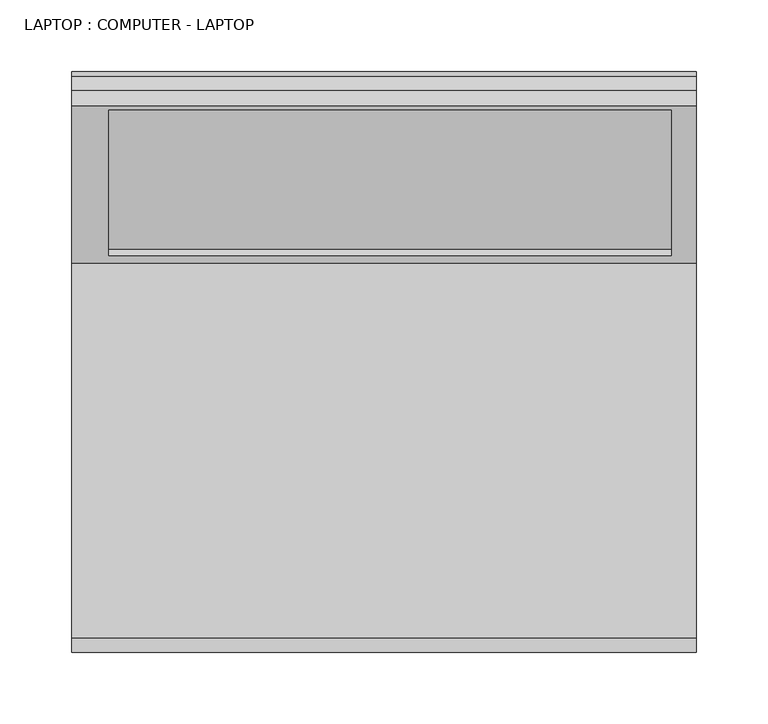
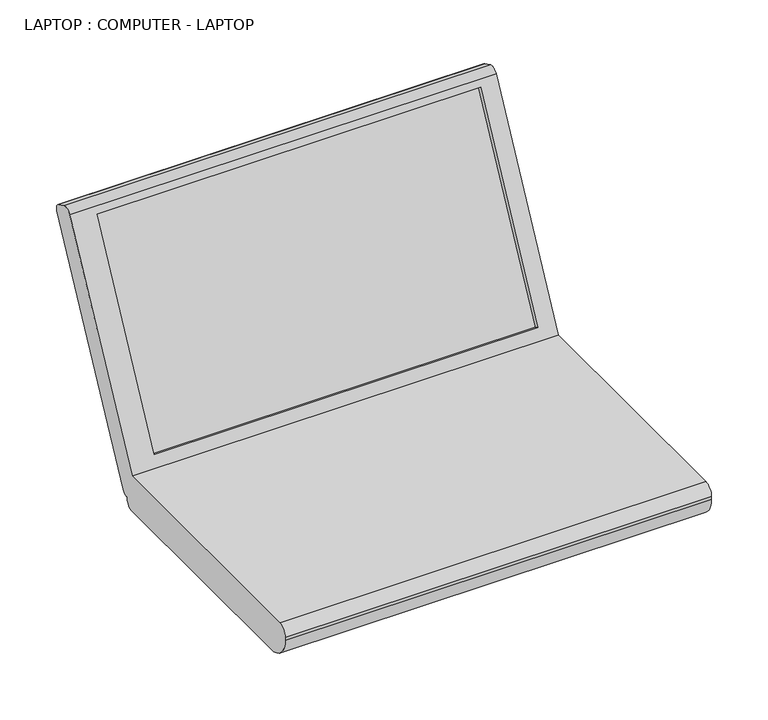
"""IFC4 building model written with IfcOpenShell, lengths in millimetres: proxy geometry, LAPTOP : COMPUTER - LAPTOP."""

from ifc_helpers import new_model, si_unit, frame, origin, place, context, project, spatial, circle_curve, source, transform, mapped, element, save
from ifc_brep_helpers import plane_surface, cylinder_surface, advanced_brep


def laptop_computer_laptop_e9ecc115(model_context):
    return source(origin(), model_context, "Body", "AdvancedBrep", [
        advanced_brep(
        [(222.7099728, 100.9210567, 0.0), (222.7099728, 109.8065169, 10.0348777), (222.7099728, 116.9879492, 13.9651588), (222.7099728, 234.2198653, 244.0457491), (222.7099728, 231.5536076, 252.2516467), (222.7099728, 221.8218996, 257.2101996), (222.7099728, 211.0931325, 253.7242118), (222.7099728, 101.2168972, 38.0799582), (222.7099728, -160.1276547, 38.0799582), (222.7099728, -170.1276547, 28.0799582), (222.7099728, -170.1276547, 25.0), (222.7099728, -145.1276547, 0.0), (-212.691785, 100.9210567, 0.0), (-212.691785, -145.1276547, 0.0), (-212.691785, -170.1276547, 25.0), (-212.691785, -170.1276547, 28.0799582), (-212.691785, -160.1276547, 38.0799582), (-212.691785, 101.2168972, 38.0799582), (-212.691785, 211.0931325, 253.7242118), (-212.691785, 221.8218996, 257.2101996), (-212.691785, 231.5536076, 252.2516467), (-212.691785, 234.2198653, 244.0457491), (-212.691785, 116.9879492, 13.9651588), (-212.691785, 109.8065169, 10.0348777), (205.2836183, 207.9046647, 247.4664914), (205.2836183, 106.7529487, 48.9450711), (-186.8371045, 106.7529487, 48.9450711), (-186.8371045, 207.9046647, 247.4664914), (205.2836183, 212.3596973, 245.1965389), (205.2836183, 111.2079814, 46.6751186), (-186.8371045, 111.2079814, 46.6751186), (-186.8371045, 212.3596973, 245.1965389)],
        [
            (0, 1, circle_curve(frame((222.7099728, 100.9210567, 8.9512887), z_axis=(1.0, 0.0, 0.0), x_axis=(0.0, -1.0, 0.0)), 8.9512887)),
            (1, 2, circle_curve(frame((222.7099728, 110.517398, 17.2620693), z_axis=(1.0, 0.0, 0.0), x_axis=(0.0, -1.0, 0.0)), 7.2620693)),
            (2, 3),
            (3, 4, circle_curve(frame((222.7099728, 228.7837877, 246.815569), z_axis=(1.0, 0.0, 0.0), x_axis=(0.0, -1.0, 0.0)), 6.1010526)),
            (4, 5),
            (5, 6, circle_curve(frame((222.7099728, 218.2005099, 250.1028222), z_axis=(1.0, 0.0, 0.0), x_axis=(0.0, -1.0, 0.0)), 7.9767962)),
            (6, 7),
            (7, 8),
            (8, 9, circle_curve(frame((222.7099728, -160.1276547, 28.0799582), z_axis=(1.0, 0.0, 0.0), x_axis=(0.0, -1.0, 0.0)), 10.0)),
            (9, 10),
            (10, 11, circle_curve(frame((222.7099728, -145.1276547, 25.0), z_axis=(1.0, 0.0, 0.0), x_axis=(0.0, -1.0, 0.0)), 25.0)),
            (11, 0),
            (12, 13),
            (13, 14, circle_curve(frame((-212.691785, -145.1276547, 25.0), z_axis=(-1.0, 0.0, 0.0), x_axis=(0.0, -1.0, 0.0)), 25.0)),
            (14, 15),
            (15, 16, circle_curve(frame((-212.691785, -160.1276547, 28.0799582), z_axis=(-1.0, 0.0, 0.0), x_axis=(0.0, -1.0, 0.0)), 10.0)),
            (16, 17),
            (17, 18),
            (18, 19, circle_curve(frame((-212.691785, 218.2005099, 250.1028222), z_axis=(-1.0, 0.0, 0.0), x_axis=(0.0, -1.0, 0.0)), 7.9767962)),
            (19, 20),
            (20, 21, circle_curve(frame((-212.691785, 228.7837877, 246.815569), z_axis=(-1.0, 0.0, 0.0), x_axis=(0.0, -1.0, 0.0)), 6.1010526)),
            (21, 22),
            (22, 23, circle_curve(frame((-212.691785, 110.517398, 17.2620693), z_axis=(-1.0, 0.0, 0.0), x_axis=(0.0, -1.0, 0.0)), 7.2620693)),
            (23, 12, circle_curve(frame((-212.691785, 100.9210567, 8.9512887), z_axis=(-1.0, 0.0, 0.0), x_axis=(0.0, -1.0, 0.0)), 8.9512887)),
            (0, 12),
            (23, 1),
            (22, 2),
            (21, 3),
            (20, 4),
            (19, 5),
            (18, 6),
            (17, 7),
            (24, 25),
            (25, 26),
            (26, 27),
            (27, 24),
            (16, 8),
            (15, 9),
            (14, 10),
            (13, 11),
            (28, 29),
            (29, 25),
            (24, 28),
            (30, 31),
            (31, 27),
            (26, 30),
            (28, 31),
            (30, 29),
        ],
        [
            plane_surface(frame((222.7099728, 91.969768, 8.9512887), z_axis=(1.0, 0.0, 0.0), x_axis=(0.0, 0.0, -1.0))),
            plane_surface(frame((-212.691785, 91.969768, 8.9512887), z_axis=(-1.0, 0.0, 0.0), x_axis=(0.0, 0.0, 1.0))),
            cylinder_surface(frame((-212.691785, 100.9210567, 8.9512887), z_axis=(1.0, 0.0, 0.0), x_axis=(0.0, -1.0, 0.0)), 8.9512887),
            cylinder_surface(frame((-212.691785, 110.517398, 17.2620693), z_axis=(1.0, 0.0, 0.0), x_axis=(0.0, -1.0, 0.0)), 7.2620693),
            plane_surface(frame((222.7099728, 116.9879492, 13.9651588), z_axis=(0.0, 0.8910065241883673, -0.45399049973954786), x_axis=(-1.0, 0.0, 0.0))),
            cylinder_surface(frame((-212.691785, 228.7837877, 246.815569), z_axis=(1.0, 0.0, 0.0), x_axis=(0.0, -1.0, 0.0)), 6.1010526),
            plane_surface(frame((222.7099728, 231.5536076, 252.2516467), z_axis=(0.0, 0.45399049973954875, 0.8910065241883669), x_axis=(-1.0, 0.0, 0.0))),
            cylinder_surface(frame((-212.691785, 218.2005099, 250.1028222), z_axis=(1.0, 0.0, 0.0), x_axis=(0.0, -1.0, 0.0)), 7.9767962),
            plane_surface(frame((222.7099728, 211.0931325, 253.7242118), z_axis=(0.0, -0.8910065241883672, 0.4539904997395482), x_axis=(-1.0, 0.0, 0.0))),
            plane_surface(frame((222.7099728, 101.2168972, 38.0799582), z_axis=(0.0, 0.0, 1.0), x_axis=(-1.0, 0.0, 0.0))),
            cylinder_surface(frame((-212.691785, -160.1276547, 28.0799582), z_axis=(1.0, 0.0, 0.0), x_axis=(0.0, -1.0, 0.0)), 10.0),
            plane_surface(frame((222.7099728, -170.1276547, 28.0799582), z_axis=(0.0, -1.0, 0.0), x_axis=(-1.0, 0.0, 0.0))),
            cylinder_surface(frame((-212.691785, -145.1276547, 25.0), z_axis=(1.0, 0.0, 0.0), x_axis=(0.0, -1.0, 0.0)), 25.0),
            plane_surface(frame((222.7099728, -145.1276547, 0.0), z_axis=(0.0, 0.0, -1.0), x_axis=(-1.0, 0.0, 0.0))),
            plane_surface(frame((205.2836183, 215.5481651, 251.4542593), z_axis=(-1.0000000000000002, 0.0, 0.0), x_axis=(0.0, 0.4539904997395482, 0.8910065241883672))),
            plane_surface(frame((-186.8371045, 215.5481651, 251.4542593), z_axis=(1.0000000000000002, 0.0, 0.0), x_axis=(0.0, -0.4539904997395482, -0.8910065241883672))),
            plane_surface(frame((205.2836183, 111.2079814, 46.6751186), z_axis=(0.0, -0.8910065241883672, 0.4539904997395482), x_axis=(-1.0, 0.0, 0.0))),
            plane_surface(frame((205.2836183, 212.3596973, 245.1965389), z_axis=(0.0, -0.4539904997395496, -0.8910065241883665), x_axis=(-1.0, 0.0, 0.0))),
            plane_surface(frame((205.2836183, 102.146703, 51.2920705), z_axis=(0.0, 0.4539904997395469, 0.8910065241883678), x_axis=(-1.0, 0.0, 0.0))),
        ],
        [
            (0, [[1, 2, 3, 4, 5, 6, 7, 8, 9, 10, 11, 12]]),
            (1, [[13, 14, 15, 16, 17, 18, 19, 20, 21, 22, 23, 24]]),
            (2, [[-1, 25, -24, 26]]),
            (3, [[-2, -26, -23, 27]]),
            (4, [[-3, -27, -22, 28]]),
            (5, [[-4, -28, -21, 29]]),
            (6, [[-5, -29, -20, 30]]),
            (7, [[-6, -30, -19, 31]]),
            (8, [[-7, -31, -18, 32], [33, 34, 35, 36]]),
            (9, [[-8, -32, -17, 37]]),
            (10, [[-9, -37, -16, 38]]),
            (11, [[-10, -38, -15, 39]]),
            (12, [[-11, -39, -14, 40]]),
            (13, [[-12, -40, -13, -25]]),
            (14, [[41, 42, -33, 43]]),
            (15, [[44, 45, -35, 46]]),
            (16, [[-41, 47, -44, 48]]),
            (17, [[-47, -43, -36, -45]]),
            (18, [[-48, -46, -34, -42]]),
        ],
    ),
    ])


if __name__ == "__main__":
    model = new_model("IFC4")
    model_context = context("Model", 3, world=origin())
    ifc_project = project(units=[si_unit("LENGTHUNIT", "METRE", prefix="MILLI")], contexts=[model_context])
    site = spatial("IfcSite", under=ifc_project)
    building = spatial("IfcBuilding", under=site)
    placement = place(None, origin())
    laptop_computer_laptop_shape = laptop_computer_laptop_e9ecc115(model_context)
    element("IfcBuildingElementProxy", 1, Name="LAPTOP : COMPUTER - LAPTOP", ObjectType="LAPTOP : COMPUTER - LAPTOP", at=placement, inside=building, context=model_context, shape_type="MappedRepresentation", body=[
        mapped(laptop_computer_laptop_shape, transform((0.0, 0.0, 0.0), x_axis=(1.0, 0.0, 0.0), y_axis=(0.0, 1.0, 0.0), z_axis=(0.0, 0.0, 1.0))),
    ])
    save(model, "model.ifc")
